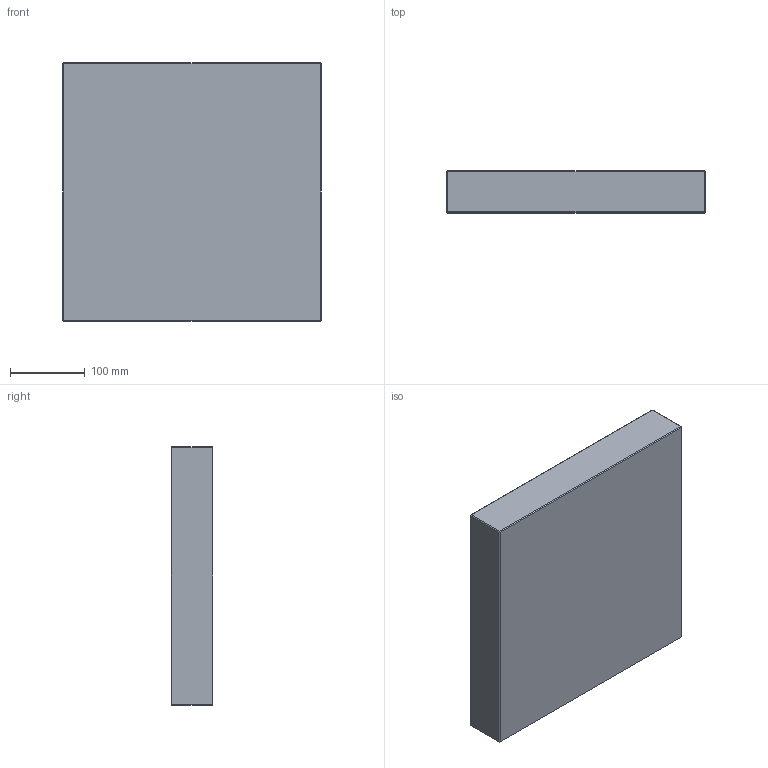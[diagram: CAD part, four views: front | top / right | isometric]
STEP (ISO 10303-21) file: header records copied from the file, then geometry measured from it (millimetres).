
FILE_DESCRIPTION (( 'STEP AP214' ), '1' );
FILE_NAME ('PC-P-346x346x56.STEP', '2020-04-01T10:00:08', ( 'August' ), ( '' ), 'SwSTEP 2.0', 'SolidWorks 2018', '' );
FILE_SCHEMA (( 'AUTOMOTIVE_DESIGN' ));
Length unit declared in the file: millimetre
Products named in the file (1): PC-P-346x346x56
Bounding box: 346 x 56 x 346 mm (x, y, z)
Volume: 6702605.3 mm3; surface area: 315180.3 mm2
Topology: 1 solids, 1 shells, 26 faces, 48 edges, 24 vertices
Faces by surface type: plane 26
Entity records: 634 total; most frequent: DIRECTION 102, CARTESIAN_POINT 99, ORIENTED_EDGE 96, EDGE_CURVE 48, VECTOR 48, LINE 48, AXIS2_PLACEMENT_3D 27, ADVANCED_FACE 26
